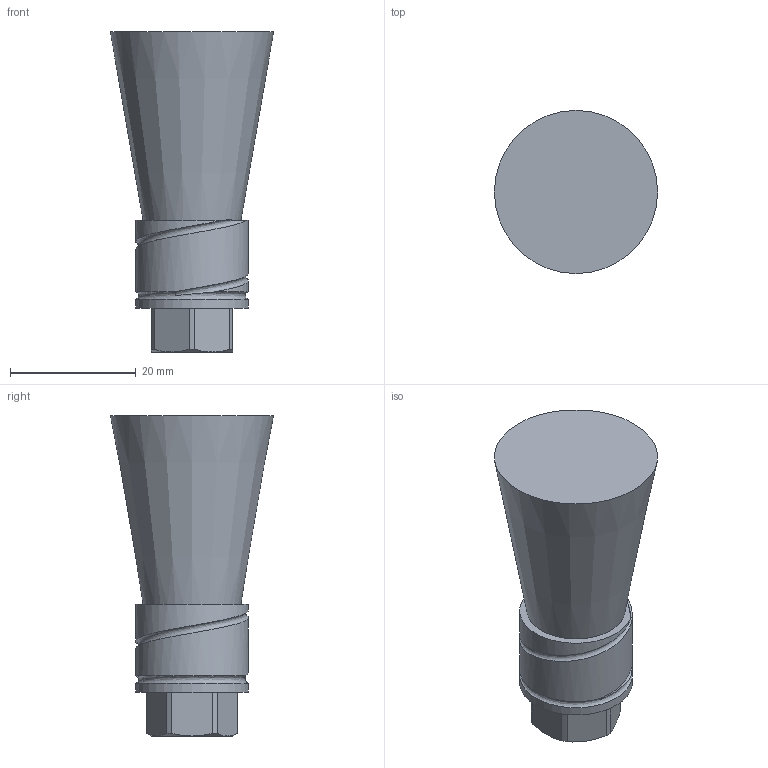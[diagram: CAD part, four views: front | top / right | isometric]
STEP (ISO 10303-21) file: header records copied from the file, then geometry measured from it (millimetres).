
FILE_DESCRIPTION (( 'STEP AP214' ), '1' );
FILE_NAME ('012_0116_130_50.STEP', '2026-01-14T15:40:00', ( '' ), ( '' ), 'SwSTEP 2.0', 'SolidWorks 2022', '' );
FILE_SCHEMA (( 'AUTOMOTIVE_DESIGN' ));
Length unit declared in the file: millimetre
Products named in the file (1): 012_0116_130_50
Bounding box: 26 x 26 x 51 mm (x, y, z)
Volume: 14399.3 mm3; surface area: 4204.5 mm2
Topology: 1 solids, 1 shells, 32 faces, 78 edges, 50 vertices
Faces by surface type: plane 11, cylinder 10, cone 9, bspline 2
Full cylindrical faces by diameter (mm): 2 x1, 8.6 x1, 18 x1
Entity records: 1691 total; most frequent: CARTESIAN_POINT 947, DIRECTION 138, ORIENTED_EDGE 132, EDGE_CURVE 66, AXIS2_PLACEMENT_3D 60, VERTEX_POINT 46, EDGE_LOOP 42, FACE_OUTER_BOUND 36
